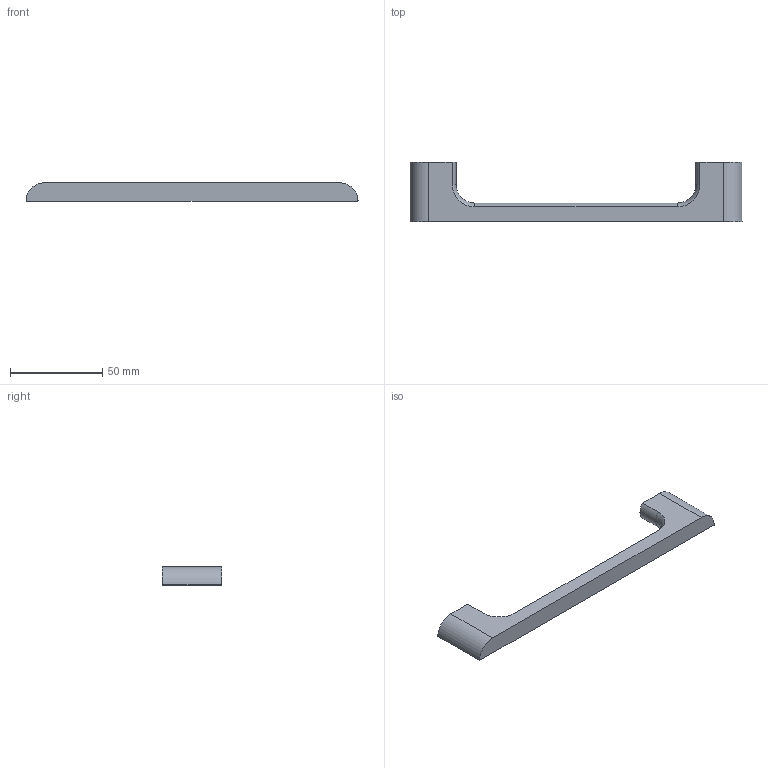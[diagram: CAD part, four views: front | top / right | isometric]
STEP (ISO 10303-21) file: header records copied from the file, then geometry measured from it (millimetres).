
FILE_DESCRIPTION( ( '' ), '1' );
FILE_NAME( 'C:/Documents and Settings/Sachin/Desktop/Sheet 10_1/stp/9080859.stp', '2013-10-22T09:28:16', ( '' ), ( '' ), ' ', ' ', ' ' );
FILE_SCHEMA( ( 'CONFIG_CONTROL_DESIGN' ) );
Length unit declared in the file: millimetre
Products named in the file (1): 1
Bounding box: 179.99 x 32 x 10 mm (x, y, z)
Volume: 26712 mm3; surface area: 9853.5 mm2
Topology: 1 solids, 1 shells, 22 faces, 55 edges, 37 vertices
Faces by surface type: cylinder 11, plane 7, torus 4
Entity records: 723 total; most frequent: DIRECTION 133, CARTESIAN_POINT 115, ORIENTED_EDGE 110, AXIS2_PLACEMENT_3D 55, EDGE_CURVE 55, VERTEX_POINT 37, CIRCLE 32, EDGE_LOOP 24
